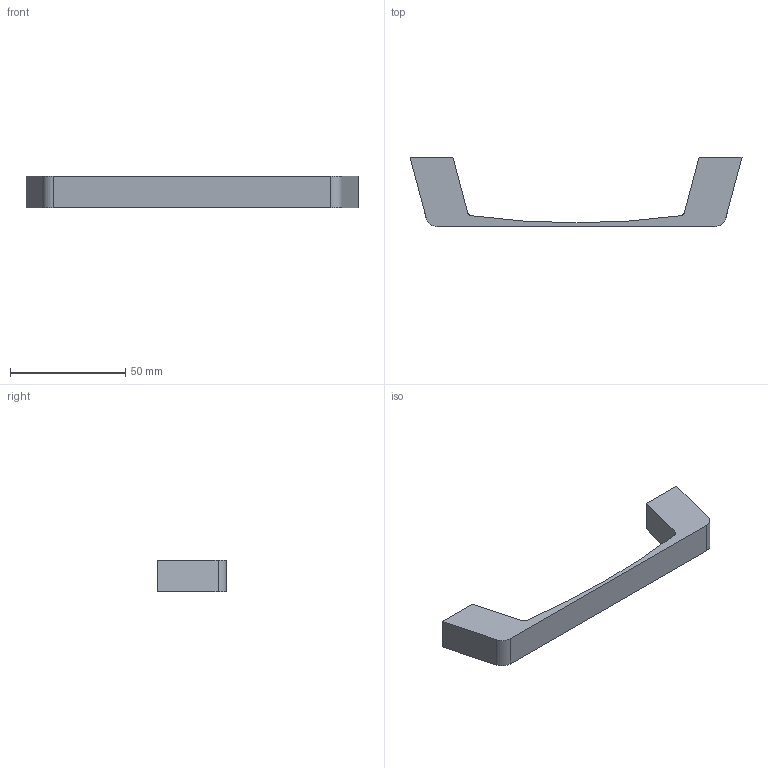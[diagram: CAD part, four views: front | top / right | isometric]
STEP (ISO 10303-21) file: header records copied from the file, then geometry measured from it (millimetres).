
FILE_DESCRIPTION( ( '' ), '1' );
FILE_NAME( 'C:/Documents and Settings/Nikhil/Desktop/Nik/Done/9065634.stp', '2013-10-24T06:11:41', ( '' ), ( '' ), ' ', ' ', ' ' );
FILE_SCHEMA( ( 'automotive_design' ) );
Length unit declared in the file: millimetre
Products named in the file (1): 1
Bounding box: 144 x 30 x 13.5 mm (x, y, z)
Volume: 18147.2 mm3; surface area: 7916.5 mm2
Topology: 1 solids, 1 shells, 20 faces, 48 edges, 32 vertices
Faces by surface type: plane 11, cylinder 9
Entity records: 1174 total; most frequent: DIRECTION 108, STYLED_ITEM 101, PRESENTATION_STYLE_ASSIGNMENT 101, CARTESIAN_POINT 101, COLOUR_RGB 101, ORIENTED_EDGE 96, EDGE_CURVE 48, CURVE_STYLE 48
